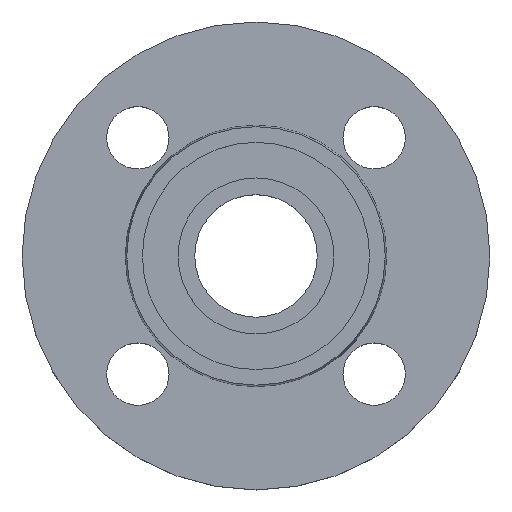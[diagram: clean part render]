
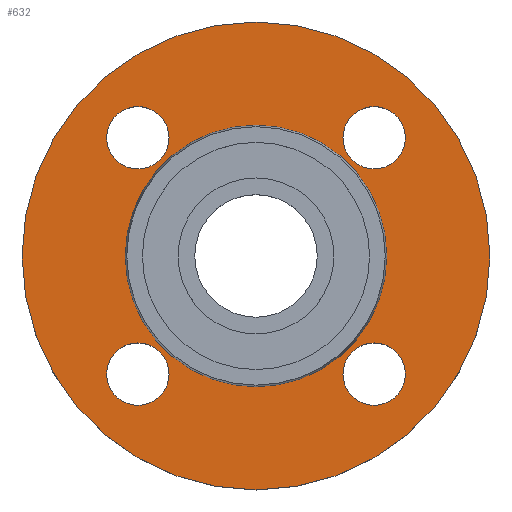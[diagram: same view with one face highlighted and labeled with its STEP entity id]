
A CAD part, top view. The second image highlights one B-rep face of the part: STEP entity #632.
In plain terms, the highlighted planar face has unit normal (0, 0, 1).
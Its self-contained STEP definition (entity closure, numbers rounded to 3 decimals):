
#2 = CARTESIAN_POINT ( 'NONE',  ( -52.5, 0., -2. ) ) ;
#3 = CARTESIAN_POINT ( 'NONE',  ( 33.517, -26.517, -2. ) ) ;
#9 = CARTESIAN_POINT ( 'NONE',  ( -33.517, 26.517, -2. ) ) ;
#14 = EDGE_CURVE ( 'NONE', #573, #562, #423, .T. ) ;
#28 = AXIS2_PLACEMENT_3D ( 'NONE', #629, #630, #635 ) ;
#32 = CIRCLE ( 'NONE', #212, 29.353 ) ;
#44 = CIRCLE ( 'NONE', #331, 52.5 ) ;
#97 = DIRECTION ( 'NONE',  ( 1., 0., 0. ) ) ;
#98 = DIRECTION ( 'NONE',  ( 0., 0., -1. ) ) ;
#99 = CARTESIAN_POINT ( 'NONE',  ( 26.517, 26.517, -2. ) ) ;
#102 = AXIS2_PLACEMENT_3D ( 'NONE', #652, #650, #746 ) ;
#111 = CARTESIAN_POINT ( 'NONE',  ( 52.5, 0., -2. ) ) ;
#112 = CARTESIAN_POINT ( 'NONE',  ( -33.517, -26.517, -2. ) ) ;
#117 = CARTESIAN_POINT ( 'NONE',  ( 29.353, 0., -2. ) ) ;
#118 = DIRECTION ( 'NONE',  ( -1., 0., 0. ) ) ;
#119 = DIRECTION ( 'NONE',  ( 0., 0., -1. ) ) ;
#121 = CIRCLE ( 'NONE', #102, 7. ) ;
#122 = CARTESIAN_POINT ( 'NONE',  ( 0., 0., -2. ) ) ;
#124 = DIRECTION ( 'NONE',  ( -1., 0., 0. ) ) ;
#128 = DIRECTION ( 'NONE',  ( 0., 0., -1. ) ) ;
#129 = CARTESIAN_POINT ( 'NONE',  ( 0., 0., -2. ) ) ;
#131 = AXIS2_PLACEMENT_3D ( 'NONE', #299, #406, #440 ) ;
#132 = EDGE_CURVE ( 'NONE', #451, #617, #367, .T. ) ;
#137 = CIRCLE ( 'NONE', #131, 7. ) ;
#145 = DIRECTION ( 'NONE',  ( 1., 0., 0. ) ) ;
#146 = DIRECTION ( 'NONE',  ( 0., 0., -1. ) ) ;
#148 = CARTESIAN_POINT ( 'NONE',  ( -26.517, -26.517, -2. ) ) ;
#177 = DIRECTION ( 'NONE',  ( 1., 0., 0. ) ) ;
#178 = DIRECTION ( 'NONE',  ( 0., 0., -1. ) ) ;
#179 = CARTESIAN_POINT ( 'NONE',  ( -26.517, 26.517, -2. ) ) ;
#180 = DIRECTION ( 'NONE',  ( -1., 0., 0. ) ) ;
#182 = DIRECTION ( 'NONE',  ( 0., 0., -1. ) ) ;
#183 = CARTESIAN_POINT ( 'NONE',  ( 0., 0., -2. ) ) ;
#185 = AXIS2_PLACEMENT_3D ( 'NONE', #129, #128, #124 ) ;
#212 = AXIS2_PLACEMENT_3D ( 'NONE', #122, #119, #118 ) ;
#246 = EDGE_LOOP ( 'NONE', ( #389, #390 ) ) ;
#260 = VERTEX_POINT ( 'NONE', #408 ) ;
#263 = AXIS2_PLACEMENT_3D ( 'NONE', #148, #146, #145 ) ;
#273 = AXIS2_PLACEMENT_3D ( 'NONE', #713, #715, #716 ) ;
#286 = EDGE_LOOP ( 'NONE', ( #380, #388 ) ) ;
#295 = AXIS2_PLACEMENT_3D ( 'NONE', #541, #530, #531 ) ;
#296 = CIRCLE ( 'NONE', #263, 7. ) ;
#299 = CARTESIAN_POINT ( 'NONE',  ( 26.517, 26.517, -2. ) ) ;
#326 = CIRCLE ( 'NONE', #735, 7. ) ;
#328 = AXIS2_PLACEMENT_3D ( 'NONE', #179, #178, #177 ) ;
#329 = AXIS2_PLACEMENT_3D ( 'NONE', #524, #526, #499 ) ;
#330 = CIRCLE ( 'NONE', #328, 7. ) ;
#331 = AXIS2_PLACEMENT_3D ( 'NONE', #183, #182, #180 ) ;
#335 = CIRCLE ( 'NONE', #185, 52.5 ) ;
#346 = AXIS2_PLACEMENT_3D ( 'NONE', #99, #98, #97 ) ;
#367 = CIRCLE ( 'NONE', #273, 7. ) ;
#374 = CIRCLE ( 'NONE', #346, 7. ) ;
#380 = ORIENTED_EDGE ( 'NONE', *, *, #609, .T. ) ;
#383 = EDGE_CURVE ( 'NONE', #459, #563, #44, .T. ) ;
#384 = EDGE_CURVE ( 'NONE', #260, #555, #330, .T. ) ;
#388 = ORIENTED_EDGE ( 'NONE', *, *, #14, .T. ) ;
#389 = ORIENTED_EDGE ( 'NONE', *, *, #428, .T. ) ;
#390 = ORIENTED_EDGE ( 'NONE', *, *, #132, .T. ) ;
#391 = ORIENTED_EDGE ( 'NONE', *, *, #384, .T. ) ;
#392 = ORIENTED_EDGE ( 'NONE', *, *, #742, .T. ) ;
#395 = ORIENTED_EDGE ( 'NONE', *, *, #466, .T. ) ;
#406 = DIRECTION ( 'NONE',  ( 0., 0., -1. ) ) ;
#408 = CARTESIAN_POINT ( 'NONE',  ( -19.517, 26.517, -2. ) ) ;
#413 = ORIENTED_EDGE ( 'NONE', *, *, #740, .T. ) ;
#416 = ORIENTED_EDGE ( 'NONE', *, *, #383, .F. ) ;
#417 = ORIENTED_EDGE ( 'NONE', *, *, #443, .T. ) ;
#420 = CIRCLE ( 'NONE', #295, 29.353 ) ;
#422 = ORIENTED_EDGE ( 'NONE', *, *, #648, .T. ) ;
#423 = CIRCLE ( 'NONE', #28, 7. ) ;
#426 = ORIENTED_EDGE ( 'NONE', *, *, #438, .F. ) ;
#428 = EDGE_CURVE ( 'NONE', #617, #451, #296, .T. ) ;
#438 = EDGE_CURVE ( 'NONE', #563, #459, #335, .T. ) ;
#440 = DIRECTION ( 'NONE',  ( 1., 0., 0. ) ) ;
#443 = EDGE_CURVE ( 'NONE', #447, #616, #32, .T. ) ;
#447 = VERTEX_POINT ( 'NONE', #117 ) ;
#451 = VERTEX_POINT ( 'NONE', #112 ) ;
#459 = VERTEX_POINT ( 'NONE', #111 ) ;
#466 = EDGE_CURVE ( 'NONE', #612, #614, #374, .T. ) ;
#477 = CARTESIAN_POINT ( 'NONE',  ( 33.517, 26.517, -2. ) ) ;
#480 = EDGE_LOOP ( 'NONE', ( #416, #426 ) ) ;
#481 = EDGE_LOOP ( 'NONE', ( #391, #392 ) ) ;
#482 = CARTESIAN_POINT ( 'NONE',  ( 26.517, -26.517, -2. ) ) ;
#486 = DIRECTION ( 'NONE',  ( 1., 0., 0. ) ) ;
#494 = EDGE_LOOP ( 'NONE', ( #422, #417 ) ) ;
#495 = CARTESIAN_POINT ( 'NONE',  ( -29.353, 0., -2. ) ) ;
#497 = EDGE_LOOP ( 'NONE', ( #395, #413 ) ) ;
#499 = DIRECTION ( 'NONE',  ( 1., 0., 0. ) ) ;
#501 = CARTESIAN_POINT ( 'NONE',  ( 19.517, 26.517, -2. ) ) ;
#509 = FACE_BOUND ( 'NONE', #286, .T. ) ;
#511 = FACE_BOUND ( 'NONE', #246, .T. ) ;
#512 = FACE_BOUND ( 'NONE', #494, .T. ) ;
#517 = FACE_BOUND ( 'NONE', #481, .T. ) ;
#519 = FACE_BOUND ( 'NONE', #497, .T. ) ;
#520 = FACE_OUTER_BOUND ( 'NONE', #480, .T. ) ;
#523 = PLANE ( 'NONE',  #329 ) ;
#524 = CARTESIAN_POINT ( 'NONE',  ( 29.353, 0., -2. ) ) ;
#526 = DIRECTION ( 'NONE',  ( 0., 0., 1. ) ) ;
#530 = DIRECTION ( 'NONE',  ( 0., 0., -1. ) ) ;
#531 = DIRECTION ( 'NONE',  ( -1., 0., 0. ) ) ;
#541 = CARTESIAN_POINT ( 'NONE',  ( 0., 0., -2. ) ) ;
#544 = CARTESIAN_POINT ( 'NONE',  ( -19.517, -26.517, -2. ) ) ;
#546 = DIRECTION ( 'NONE',  ( 0., 0., -1. ) ) ;
#555 = VERTEX_POINT ( 'NONE', #9 ) ;
#562 = VERTEX_POINT ( 'NONE', #3 ) ;
#563 = VERTEX_POINT ( 'NONE', #2 ) ;
#573 = VERTEX_POINT ( 'NONE', #694 ) ;
#609 = EDGE_CURVE ( 'NONE', #562, #573, #326, .T. ) ;
#612 = VERTEX_POINT ( 'NONE', #477 ) ;
#614 = VERTEX_POINT ( 'NONE', #501 ) ;
#616 = VERTEX_POINT ( 'NONE', #495 ) ;
#617 = VERTEX_POINT ( 'NONE', #544 ) ;
#629 = CARTESIAN_POINT ( 'NONE',  ( 26.517, -26.517, -2. ) ) ;
#630 = DIRECTION ( 'NONE',  ( 0., 0., -1. ) ) ;
#632 = ADVANCED_FACE ( 'NONE', ( #509, #511, #517, #519, #512, #520 ), #523, .T. ) ;
#635 = DIRECTION ( 'NONE',  ( 1., 0., 0. ) ) ;
#648 = EDGE_CURVE ( 'NONE', #616, #447, #420, .T. ) ;
#650 = DIRECTION ( 'NONE',  ( 0., 0., -1. ) ) ;
#652 = CARTESIAN_POINT ( 'NONE',  ( -26.517, 26.517, -2. ) ) ;
#694 = CARTESIAN_POINT ( 'NONE',  ( 19.517, -26.517, -2. ) ) ;
#713 = CARTESIAN_POINT ( 'NONE',  ( -26.517, -26.517, -2. ) ) ;
#715 = DIRECTION ( 'NONE',  ( 0., 0., -1. ) ) ;
#716 = DIRECTION ( 'NONE',  ( 1., 0., 0. ) ) ;
#735 = AXIS2_PLACEMENT_3D ( 'NONE', #482, #546, #486 ) ;
#740 = EDGE_CURVE ( 'NONE', #614, #612, #137, .T. ) ;
#742 = EDGE_CURVE ( 'NONE', #555, #260, #121, .T. ) ;
#746 = DIRECTION ( 'NONE',  ( 1., 0., 0. ) ) ;
